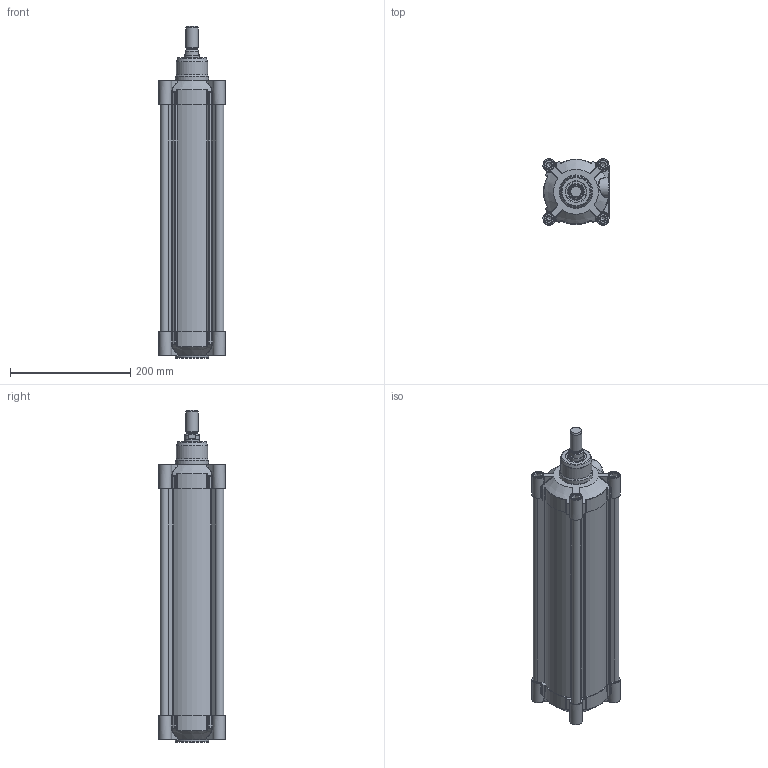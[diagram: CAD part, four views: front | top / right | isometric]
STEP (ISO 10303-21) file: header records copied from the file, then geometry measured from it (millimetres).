
FILE_DESCRIPTION(/* description */ (''),/* implementation_level */ '2;1');
FILE_NAME(/* name */ 'T:\Archivio Inventor\- 00 NUOVI STP PER SITO CON STELO CHE SI MUOVE\SERIE H - U\SERIE HDM\HDM100 - TUBO NUOVO\HDM100.320.GS.M.stp',/* time_stamp */ '2018-08-02T09:32:42+02:00',/* author */ ('carlo.corazza'),/* organization */ (''),/* preprocessor_version */ 'ST-DEVELOPER v16.5',/* originating_system */ 'Autodesk Inventor 2017',/* authorisation */ '');
FILE_SCHEMA (('AUTOMOTIVE_DESIGN { 1 0 10303 214 3 1 1 }'));
Length unit declared in the file: millimetre
Products named in the file (5): HDM100.320.GS.M; TP; TA; STELO-320; CORPO-320
Assembly tree (4 placements, depth 2):
  HDM100.320.GS.M
    TP
    TA
    STELO-320
    CORPO-320
Bounding box: 110 x 110 x 553 mm (x, y, z)
Volume: 1434904.1 mm3; surface area: 618542.8 mm2
Topology: 4 solids, 29 shells, 1355 faces, 3135 edges, 1912 vertices
Faces by surface type: plane 408, cylinder 313, bspline 270, torus 126, cone 122, sphere 116
Full cylindrical faces by diameter (mm): 5 x2, 5.9 x2, 6.5 x2, 7.25 x2, 8.376 x8, 9.4 x4, 10 x8, 10.3 x8, 11.8 x4, 11.9 x2, 12 x4, 16 x9, 16.3 x8, 17 x2, 17.5 x1, 18.631 x2, 20 x1, 24.5 x1, 25 x1, 25.8 x1, 25.962 x1, 30 x1, 31.5 x2, 35 x3, 52 x1, 55 x2, 100 x1
Entity records: 43668 total; most frequent: CARTESIAN_POINT 13702, ORIENTED_EDGE 5710, DIRECTION 5644, EDGE_CURVE 2855, AXIS2_PLACEMENT_3D 2293, VERTEX_POINT 1857, EDGE_LOOP 1690, STYLED_ITEM 1359
